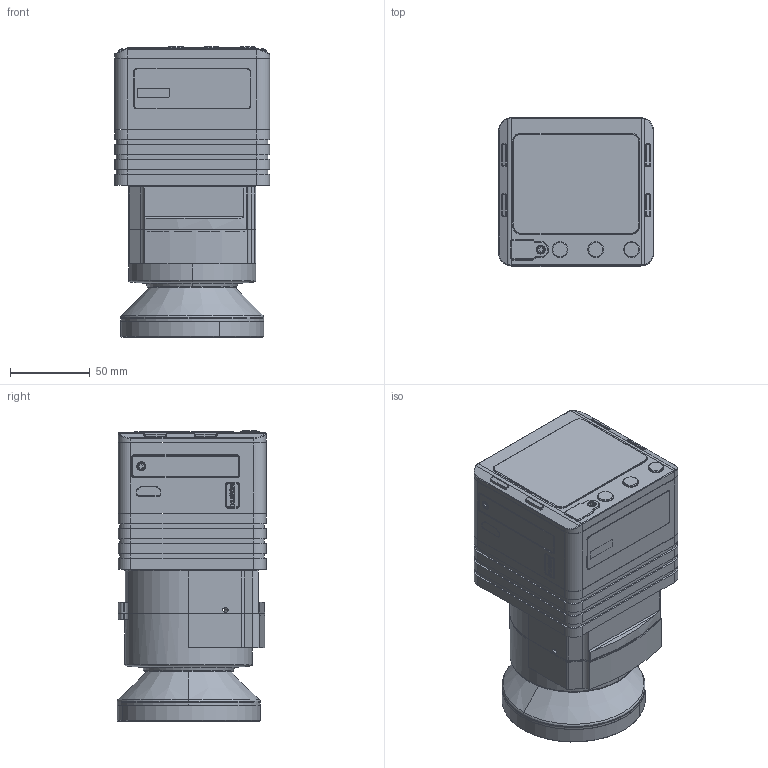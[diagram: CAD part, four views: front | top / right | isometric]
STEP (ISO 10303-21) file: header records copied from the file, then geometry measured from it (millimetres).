
FILE_DESCRIPTION (( 'STEP AP203' ), '1' );
FILE_NAME ('iXU-R with 32mm lens.STEP', '2016-12-14T15:05:56', ( '' ), ( '' ), 'SwSTEP 2.0', 'SolidWorks 2016', '' );
FILE_SCHEMA (( 'CONFIG_CONTROL_DESIGN' ));
Length unit declared in the file: millimetre
Products named in the file (1): iXU-R with 32mm lens
Bounding box: 97.55 x 94.26 x 182.6 mm (x, y, z)
Surface area: 106670.8 mm2 (no closed solid volume)
Topology: 0 solids, 34 shells, 783 faces, 2500 edges, 1734 vertices
Faces by surface type: plane 299, cylinder 202, cone 113, bspline 87, torus 82
Entity records: 29979 total; most frequent: CARTESIAN_POINT 8460, DIRECTION 4426, ORIENTED_EDGE 4120, EDGE_CURVE 2498, VERTEX_POINT 1734, AXIS2_PLACEMENT_3D 1567, LINE 1292, VECTOR 1292
